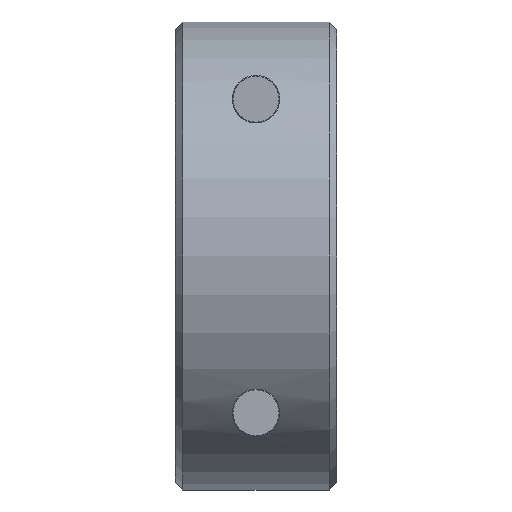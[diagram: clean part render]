
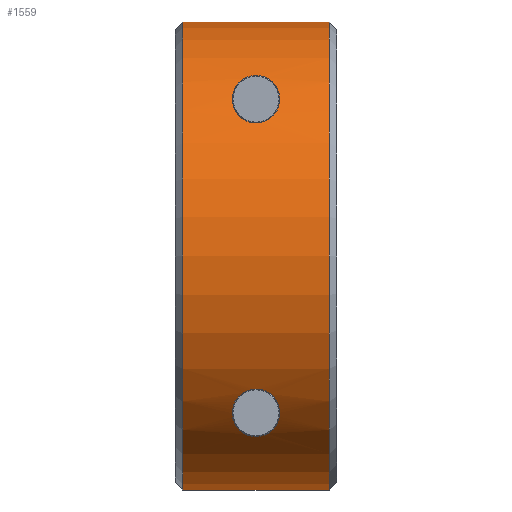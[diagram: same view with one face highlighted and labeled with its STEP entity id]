
A CAD part, front view. The second image highlights one B-rep face of the part: STEP entity #1559.
In plain terms, the highlighted cylindrical face has radius 16 mm (diameter 32 mm), a partial arc.
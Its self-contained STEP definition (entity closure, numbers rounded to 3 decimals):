
#80=LINE('',#2127,#154);
#81=LINE('',#2131,#155);
#154=VECTOR('',#1769,1000.);
#155=VECTOR('',#1772,1000.);
#228=B_SPLINE_CURVE_WITH_KNOTS('',3,(#2087,#2088,#2089,#2090,#2091,#2092,
#2093,#2094,#2095,#2096,#2097,#2098,#2099,#2100,#2101,#2102,#2103),
 .UNSPECIFIED.,.T.,.F.,(1,1,1,1,1,1,1,1,1,1,1,1,1,1,1,1,1,1,1,1,1),(-0.003,
-0.002,-0.001,0.,0.001,0.002,
0.003,0.004,0.005,0.005,
0.006,0.007,0.008,0.008,
0.009,0.011,0.011,0.012,
0.013,0.014,0.015),.UNSPECIFIED.);
#229=B_SPLINE_CURVE_WITH_KNOTS('',3,(#2106,#2107,#2108,#2109,#2110,#2111,
#2112,#2113,#2114,#2115,#2116,#2117,#2118,#2119,#2120,#2121,#2122),
 .UNSPECIFIED.,.T.,.F.,(1,1,1,1,1,1,1,1,1,1,1,1,1,1,1,1,1,1,1,1,1),(-0.003,
-0.002,-0.001,0.,0.001,0.002,
0.003,0.004,0.005,0.005,
0.006,0.007,0.008,0.008,
0.009,0.011,0.011,0.012,
0.013,0.014,0.015),.UNSPECIFIED.);
#250=ORIENTED_EDGE('',*,*,#542,.T.);
#251=ORIENTED_EDGE('',*,*,#543,.T.);
#252=ORIENTED_EDGE('',*,*,#544,.T.);
#253=ORIENTED_EDGE('',*,*,#545,.F.);
#254=ORIENTED_EDGE('',*,*,#546,.T.);
#255=ORIENTED_EDGE('',*,*,#541,.T.);
#541=EDGE_CURVE('',#687,#687,#228,.T.);
#542=EDGE_CURVE('',#688,#688,#229,.T.);
#543=EDGE_CURVE('',#689,#690,#789,.T.);
#544=EDGE_CURVE('',#690,#691,#80,.T.);
#545=EDGE_CURVE('',#692,#691,#790,.T.);
#546=EDGE_CURVE('',#692,#689,#81,.F.);
#687=VERTEX_POINT('',#2104);
#688=VERTEX_POINT('',#2123);
#689=VERTEX_POINT('',#2125);
#690=VERTEX_POINT('',#2126);
#691=VERTEX_POINT('',#2128);
#692=VERTEX_POINT('',#2130);
#789=CIRCLE('',#1638,16.);
#790=CIRCLE('',#1639,16.);
#842=EDGE_LOOP('',(#250));
#843=EDGE_LOOP('',(#251,#252,#253,#254));
#844=EDGE_LOOP('',(#255));
#940=FACE_BOUND('',#842,.T.);
#941=FACE_BOUND('',#843,.T.);
#942=FACE_BOUND('',#844,.T.);
#1039=CYLINDRICAL_SURFACE('',#1637,16.);
#1559=ADVANCED_FACE('',(#940,#941,#942),#1039,.T.);
#1637=AXIS2_PLACEMENT_3D('',#2105,#1765,#1766);
#1638=AXIS2_PLACEMENT_3D('',#2124,#1767,#1768);
#1639=AXIS2_PLACEMENT_3D('',#2129,#1770,#1771);
#1765=DIRECTION('',(1.,0.,0.));
#1766=DIRECTION('',(0.,0.,-1.));
#1767=DIRECTION('',(1.,0.,0.));
#1768=DIRECTION('',(0.,0.,-1.));
#1769=DIRECTION('',(1.,0.,0.));
#1770=DIRECTION('',(1.,0.,0.));
#1771=DIRECTION('',(0.,0.,-1.));
#1772=DIRECTION('',(1.,0.,0.));
#2087=CARTESIAN_POINT('',(-0.755,-13.09,-9.203));
#2088=CARTESIAN_POINT('',(0.001,-13.217,-9.017));
#2089=CARTESIAN_POINT('',(0.753,-13.091,-9.202));
#2090=CARTESIAN_POINT('',(1.476,-12.655,-9.807));
#2091=CARTESIAN_POINT('',(1.691,-12.002,-10.603));
#2092=CARTESIAN_POINT('',(1.529,-11.311,-11.324));
#2093=CARTESIAN_POINT('',(1.234,-10.811,-11.801));
#2094=CARTESIAN_POINT('',(0.746,-10.362,-12.194));
#2095=CARTESIAN_POINT('',(0.001,-10.13,-12.384));
#2096=CARTESIAN_POINT('',(-0.744,-10.361,-12.195));
#2097=CARTESIAN_POINT('',(-1.233,-10.808,-11.804));
#2098=CARTESIAN_POINT('',(-1.53,-11.311,-11.324));
#2099=CARTESIAN_POINT('',(-1.691,-12.001,-10.604));
#2100=CARTESIAN_POINT('',(-1.475,-12.655,-9.807));
#2101=CARTESIAN_POINT('',(-0.755,-13.09,-9.203));
#2102=CARTESIAN_POINT('',(0.001,-13.217,-9.017));
#2103=CARTESIAN_POINT('',(0.753,-13.091,-9.202));
#2104=CARTESIAN_POINT('',(0.,-13.175,-9.079));
#2105=CARTESIAN_POINT('',(5.5,0.,0.));
#2106=CARTESIAN_POINT('',(0.755,-13.09,9.203));
#2107=CARTESIAN_POINT('',(-0.001,-13.217,9.017));
#2108=CARTESIAN_POINT('',(-0.753,-13.091,9.202));
#2109=CARTESIAN_POINT('',(-1.476,-12.655,9.807));
#2110=CARTESIAN_POINT('',(-1.691,-12.002,10.603));
#2111=CARTESIAN_POINT('',(-1.529,-11.311,11.324));
#2112=CARTESIAN_POINT('',(-1.234,-10.811,11.801));
#2113=CARTESIAN_POINT('',(-0.746,-10.362,12.194));
#2114=CARTESIAN_POINT('',(-0.001,-10.13,12.384));
#2115=CARTESIAN_POINT('',(0.744,-10.361,12.195));
#2116=CARTESIAN_POINT('',(1.233,-10.808,11.804));
#2117=CARTESIAN_POINT('',(1.53,-11.311,11.324));
#2118=CARTESIAN_POINT('',(1.691,-12.001,10.604));
#2119=CARTESIAN_POINT('',(1.475,-12.655,9.807));
#2120=CARTESIAN_POINT('',(0.755,-13.09,9.203));
#2121=CARTESIAN_POINT('',(-0.001,-13.217,9.017));
#2122=CARTESIAN_POINT('',(-0.753,-13.091,9.202));
#2123=CARTESIAN_POINT('',(0.,-13.175,9.079));
#2124=CARTESIAN_POINT('',(-5.,0.,0.));
#2125=CARTESIAN_POINT('',(-5.,-1.05,15.966));
#2126=CARTESIAN_POINT('',(-5.,-1.05,-15.966));
#2127=CARTESIAN_POINT('',(5.5,-1.05,-15.966));
#2128=CARTESIAN_POINT('',(5.,-1.05,-15.966));
#2129=CARTESIAN_POINT('',(5.,0.,0.));
#2130=CARTESIAN_POINT('',(5.,-1.05,15.966));
#2131=CARTESIAN_POINT('',(5.5,-1.05,15.966));
